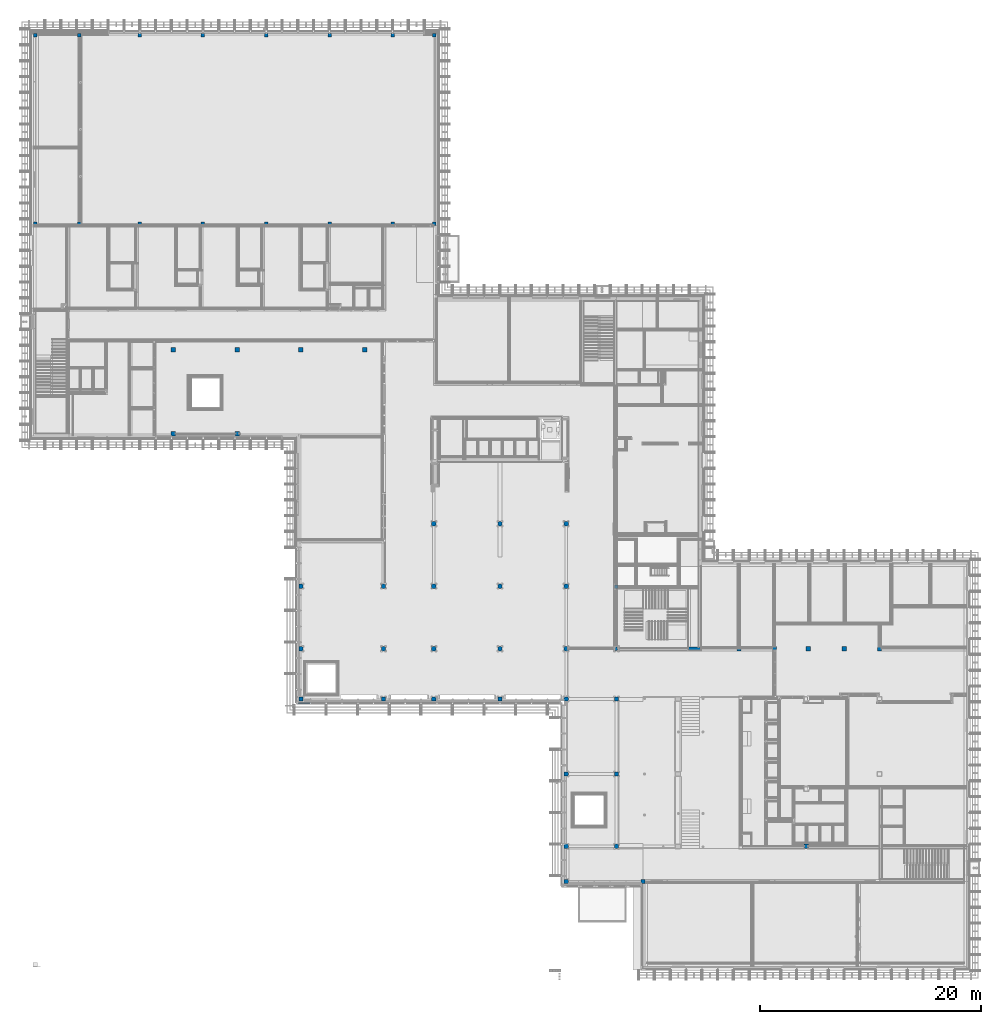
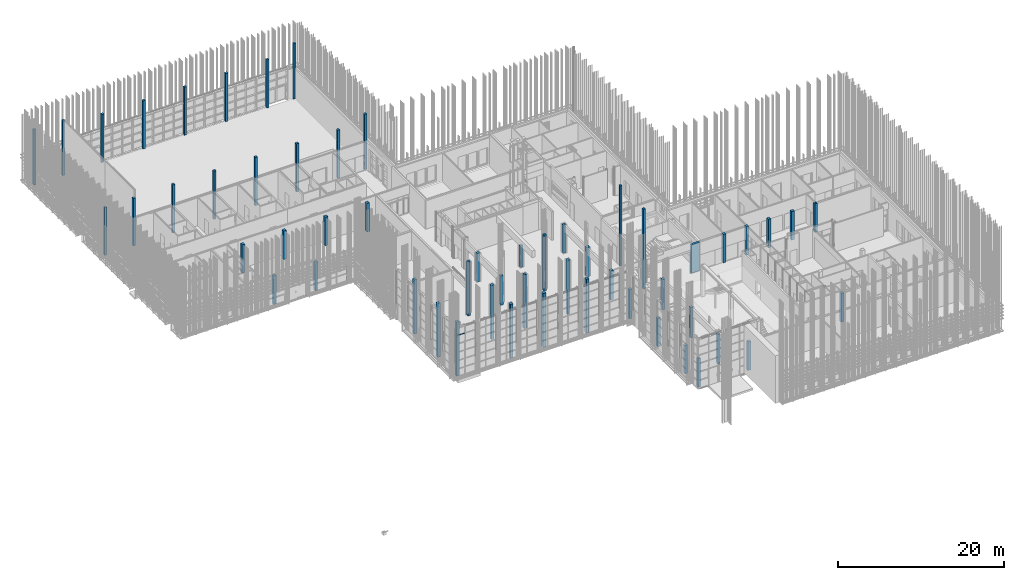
# One storey, part 1 of 260: 56 columns, 1 member, 1 element without a shape of its own.
"""IFC2X3 building model written with IfcOpenShell, lengths in millimetres."""

from ifc_helpers import new_model, entity, si_unit, converted_unit, derived_unit, money_unit, direction, frame, origin_with_axes, place, context, subcontext, project, spatial, faceted_brep, source, transform, mapped, material, type_object, element, aggregate, save


model = new_model("IFC2X3")

# Units and contexts
model_context = context("Model", 3, precision=0.01, world=origin_with_axes(), true_north=direction((0.0, 1.0)))
body_context = subcontext(model_context, "Body", "Model", "MODEL_VIEW")
ifc_project = project(units=[si_unit("LENGTHUNIT", "METRE", prefix="MILLI"), si_unit("AREAUNIT", "SQUARE_METRE"), si_unit("VOLUMEUNIT", "CUBIC_METRE"), converted_unit("PLANEANGLEUNIT", "DEGREE", entity("IfcPlaneAngleMeasure", 0.0174532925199), si_unit("PLANEANGLEUNIT", "RADIAN"), dimensions=[0, 0, 0, 0, 0, 0, 0]), money_unit("EUR"), converted_unit("TIMEUNIT", "Year", entity("IfcTimeMeasure", 31556926.0), si_unit("TIMEUNIT", "SECOND"), dimensions=[0, 0, 1, 0, 0, 0, 0]), si_unit("MASSUNIT", "GRAM", prefix="KILO"), si_unit("THERMODYNAMICTEMPERATUREUNIT", "DEGREE_CELSIUS"), si_unit("LUMINOUSINTENSITYUNIT", "LUMEN"), si_unit("ENERGYUNIT", "JOULE", prefix="MEGA"), derived_unit("THERMALCONDUCTANCEUNIT", [(si_unit("POWERUNIT", "WATT"), 1), (si_unit("LENGTHUNIT", "METRE"), -1), (si_unit("THERMODYNAMICTEMPERATUREUNIT", "KELVIN"), -1)]), derived_unit("SPECIFICHEATCAPACITYUNIT", [(si_unit("ENERGYUNIT", "JOULE"), 1), (si_unit("MASSUNIT", "GRAM", prefix="KILO"), -1), (si_unit("THERMODYNAMICTEMPERATUREUNIT", "KELVIN"), -1)]), derived_unit("MASSDENSITYUNIT", [(si_unit("MASSUNIT", "GRAM", prefix="KILO"), 1), (si_unit("VOLUMEUNIT", "CUBIC_METRE"), -1)])], contexts=[model_context])

# Site, building, storey
site_placement = place(None, origin_with_axes())
site = spatial("IfcSite", under=ifc_project, at=site_placement, Name="Kolde pst 67a", CompositionType="ELEMENT")
building_placement = place(site_placement, origin_with_axes())
building = spatial("IfcBuilding", under=site, at=building_placement, Name="Riigigümnaasium", CompositionType="ELEMENT")
storey_placement = place(building_placement, origin_with_axes())
storey = spatial("IfcBuildingStorey", under=building, at=storey_placement, Name="1. korrus", CompositionType="ELEMENT", Elevation=0.0)

# Columns
ifc_material_1 = material(Name="_KANDETARIND - liimpuit vastavalt EK osale")
column_type_1 = type_object("IfcColumnType", Name="_KANDETARIND - liimpuit vastavalt EK osale 380 x 380", PredefinedType="COLUMN")
column_1_placement = place(storey_placement, frame((52779.9941222, 10899.9619407, -300.0), z_axis=(0.0, 0.0, 1.0), x_axis=(1.0, 0.0, 0.0)))
element("IfcColumn", 1, at=column_1_placement, inside=storey, type_object=column_type_1, material=ifc_material_1, Name="POST", ObjectType="COLUMN", context=body_context, shape_type="Brep", body=[
    faceted_brep([(190.0, -190.0, 4470.0), (190.0, -190.0, 300.0), (190.0, -119.999999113, 300.0), (190.0, -119.999999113, 0.0), (190.0, 190.0, 0.0), (190.0, 190.0, 4470.0), (-190.0, -190.0, 4470.0), (-190.0, -190.0, 300.0), (-93.733573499, 190.0, 300.0), (-93.733573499, -119.999999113, 300.0), (-190.0, 190.0, 300.0), (-93.733573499, -119.999999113, 0.0), (-93.733573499, 190.0, 0.0), (-190.0, 190.0, 4470.0)], [[[0, 1, 2, 3, 4, 5]], [[0, 6, 7, 1]], [[8, 9, 2, 1, 7, 10]], [[9, 11, 3, 2]], [[4, 3, 11, 12]], [[4, 12, 8, 10, 13, 5]], [[6, 0, 5, 13]], [[6, 13, 10, 7]], [[11, 9, 8, 12]]]),
])
for number, where, z_axis, x_axis, name in (
    (2, (52779.9941222, 24229.9965348, -300.0), (0.0, 0.0, 1.0), (1.0, 0.0, 0.0), "POST"),
    (3, (52779.9941032, 17449.9999742, -300.0), (0.0, 0.0, 1.0), (1.0, 0.0, 0.0), "POST"),
):
    element("IfcColumn", number, at=place(storey_placement, frame(where, z_axis=z_axis, x_axis=x_axis)), inside=storey, type_object=column_type_1, material=ifc_material_1, Name=name, ObjectType="COLUMN", context=body_context, shape_type="Brep", body=[
        faceted_brep([(190.0, -190.0, 4470.0), (-190.0, -190.0, 4470.0), (-190.0, -190.0, 0.0), (190.0, -190.0, 0.0), (190.0, 190.0, 4470.0), (-190.0, 190.0, 4470.0), (-190.0, 190.0, 0.0), (190.0, 190.0, 0.0)], [[[0, 1, 2, 3]], [[4, 5, 1, 0]], [[1, 5, 6, 2]], [[7, 3, 2, 6]], [[4, 0, 3, 7]], [[5, 4, 7, 6]]]),
    ])
column_2_placement = place(storey_placement, frame((48229.9854607, 34439.9999729, 0.0), z_axis=(0.0, 0.0, 1.0), x_axis=(1.0, 0.0, 0.0)))
element("IfcColumn", 4, at=column_2_placement, inside=storey, type_object=column_type_1, material=ifc_material_1, Name="POST", ObjectType="COLUMN", context=body_context, shape_type="Brep", body=[
    faceted_brep([(190.0, -190.0, 0.0), (190.0, -190.0, 4310.0), (-190.0, -190.0, 4310.0), (-190.0, -190.0, 0.0), (190.0, 190.0, 0.0), (190.0, 190.0, 4310.0), (-190.0, 190.0, 4310.0), (-190.0, 190.0, 0.0)], [[[0, 1, 2, 3]], [[4, 5, 1, 0]], [[1, 5, 6, 2]], [[3, 2, 6, 7]], [[7, 4, 0, 3]], [[7, 6, 5, 4]]]),
])
column_3_placement = place(storey_placement, frame((24230.0027342, 34439.9999729, 0.0), z_axis=(0.0, 0.0, 1.0), x_axis=(1.0, 0.0, 0.0)))
element("IfcColumn", 5, at=column_3_placement, inside=storey, type_object=column_type_1, material=ifc_material_1, Name="POST", ObjectType="COLUMN", context=body_context, shape_type="Brep", body=[
    faceted_brep([(-190.0, -190.0, 7940.0), (-190.0, -190.0, 0.0), (190.0, -190.0, 0.0), (190.0, -190.0, 7940.0), (-190.0, 190.0, 7940.0), (-190.0, 190.0, 0.0), (190.0, 190.0, 0.0), (190.0, 190.0, 7940.0)], [[[0, 1, 2, 3]], [[4, 5, 1, 0]], [[2, 1, 5, 6]], [[3, 2, 6, 7]], [[4, 0, 3, 7]], [[7, 6, 5, 4]]]),
])
column_4_placement = place(storey_placement, frame((24230.0027342, 24230.2703941, 0.0), z_axis=(0.0, 0.0, 1.0), x_axis=(1.0, 0.0, 0.0)))
element("IfcColumn", 6, at=column_4_placement, inside=storey, type_object=column_type_1, material=ifc_material_1, Name="POST", ObjectType="COLUMN", context=body_context, shape_type="Brep", body=[
    faceted_brep([(190.0, -190.0, 7920.0), (-190.0, -190.0, 7920.0), (-190.0, -190.0, 0.0), (190.0, -190.0, 0.0), (190.0, 190.0, 7920.0), (-190.0, 190.0, 7920.0), (-190.0, 190.0, 0.0), (190.0, 190.0, 0.0)], [[[0, 1, 2, 3]], [[4, 5, 1, 0]], [[1, 5, 6, 2]], [[7, 3, 2, 6]], [[4, 0, 3, 7]], [[5, 4, 7, 6]]]),
])
column_5_placement = place(storey_placement, frame((36249.99923, 34439.9999729, 0.0), z_axis=(0.0, 0.0, 1.0), x_axis=(1.0, 0.0, 0.0)))
element("IfcColumn", 7, at=column_5_placement, inside=storey, type_object=column_type_1, material=ifc_material_1, Name="POST", ObjectType="COLUMN", context=body_context, shape_type="Brep", body=[
    faceted_brep([(-190.0, -190.0, 4310.0), (-190.0, -190.0, 0.0), (190.0, -190.0, 0.0), (190.0, -190.0, 4310.0), (-190.0, 190.0, 4310.0), (-190.0, 190.0, 0.0), (190.0, 190.0, 0.0), (190.0, 190.0, 4310.0)], [[[0, 1, 2, 3]], [[4, 5, 1, 0]], [[2, 1, 5, 6]], [[3, 2, 6, 7]], [[4, 0, 3, 7]], [[7, 6, 5, 4]]]),
])
column_6_placement = place(storey_placement, frame((42239.99923, 34439.9999729, 0.0), z_axis=(0.0, 0.0, 1.0), x_axis=(1.0, 0.0, 0.0)))
element("IfcColumn", 8, at=column_6_placement, inside=storey, type_object=column_type_1, material=ifc_material_1, Name="POST", ObjectType="COLUMN", context=body_context, shape_type="Brep", body=[
    faceted_brep([(190.0, -190.0, 8200.0), (-190.0, -190.0, 8200.0), (-190.0, -190.0, 0.0), (190.0, -190.0, 0.0), (190.0, 190.0, 8200.0), (-190.0, 190.0, 8200.0), (-190.0, 190.0, 0.0), (190.0, 190.0, 0.0)], [[[0, 1, 2, 3]], [[4, 5, 1, 0]], [[1, 5, 6, 2]], [[7, 3, 2, 6]], [[4, 0, 3, 7]], [[5, 4, 7, 6]]]),
])
for number, where, z_axis, x_axis, name in (
    (9, (48229.9854607, 40089.9999168, 0.0), (0.0, 0.0, 1.0), (1.0, 0.0, 0.0), "POST"),
    (10, (36249.99923, 40089.9999168, 0.0), (0.0, 0.0, 1.0), (1.0, 0.0, 0.0), "POST"),
):
    element("IfcColumn", number, at=place(storey_placement, frame(where, z_axis=z_axis, x_axis=x_axis)), inside=storey, type_object=column_type_1, material=ifc_material_1, Name=name, ObjectType="COLUMN", context=body_context, shape_type="Brep", body=[
        faceted_brep([(-190.0, -190.0, 4170.0), (-190.0, -190.0, 0.0), (190.0, -190.0, 0.0), (190.0, -190.0, 4170.0), (-190.0, 190.0, 4170.0), (-190.0, 190.0, 0.0), (190.0, 190.0, 0.0), (190.0, 190.0, 4170.0)], [[[0, 1, 2, 3]], [[4, 5, 1, 0]], [[2, 1, 5, 6]], [[3, 2, 6, 7]], [[4, 0, 3, 7]], [[7, 6, 5, 4]]]),
    ])
column_7_placement = place(storey_placement, frame((42239.99923, 40089.9999168, 0.0), z_axis=(0.0, 0.0, 1.0), x_axis=(1.0, 0.0, 0.0)))
element("IfcColumn", 11, at=column_7_placement, inside=storey, type_object=column_type_1, material=ifc_material_1, Name="POST", ObjectType="COLUMN", context=body_context, shape_type="Brep", body=[
    faceted_brep([(-190.0, -190.0, 3195.00000043), (-190.0, -190.0, 0.0), (190.0, -190.0, 0.0), (190.0, -190.0, 3195.00000043), (-190.0, 190.0, 3195.00000043), (-190.0, 190.0, 0.0), (190.0, 190.0, 0.0), (190.0, 190.0, 3195.00000043)], [[[0, 1, 2, 3]], [[4, 5, 1, 0]], [[2, 1, 5, 6]], [[3, 2, 6, 7]], [[4, 0, 3, 7]], [[7, 6, 5, 4]]]),
])
column_8_placement = place(storey_placement, frame((48229.9854607, 28779.9996998, 0.0), z_axis=(0.0, 0.0, 1.0), x_axis=(1.0, 0.0, 0.0)))
element("IfcColumn", 12, at=column_8_placement, inside=storey, type_object=column_type_1, material=ifc_material_1, Name="POST", ObjectType="COLUMN", context=body_context, shape_type="Brep", body=[
    faceted_brep([(190.0, -190.0, 4310.0), (-190.0, -190.0, 4310.0), (-190.0, -190.0, 0.0), (190.0, -190.0, 0.0), (190.0, 190.0, 4310.0), (-190.0, 190.0, 4310.0), (-190.0, 190.0, 0.0), (190.0, 190.0, 0.0)], [[[0, 1, 2, 3]], [[4, 5, 1, 0]], [[1, 5, 6, 2]], [[7, 3, 2, 6]], [[4, 0, 3, 7]], [[5, 4, 7, 6]]]),
])
for number, where, z_axis, x_axis, name in (
    (13, (36249.99923, 28779.9996997, 0.0), (0.0, 0.0, 1.0), (1.0, 0.0, 0.0), "POST"),
    (14, (42239.99923, 28779.9996997, 0.0), (0.0, 0.0, 1.0), (1.0, 0.0, 0.0), "POST"),
):
    element("IfcColumn", number, at=place(storey_placement, frame(where, z_axis=z_axis, x_axis=x_axis)), inside=storey, type_object=column_type_1, material=ifc_material_1, Name=name, ObjectType="COLUMN", context=body_context, shape_type="Brep", body=[
        faceted_brep([(-190.0, -190.0, 7920.0), (-190.0, -190.0, 0.0), (190.0, -190.0, 0.0), (190.0, -190.0, 7920.0), (-190.0, 190.0, 7920.0), (-190.0, 190.0, 0.0), (190.0, 190.0, 0.0), (190.0, 190.0, 7920.0)], [[[0, 1, 2, 3]], [[4, 5, 1, 0]], [[2, 1, 5, 6]], [[3, 2, 6, 7]], [[4, 0, 3, 7]], [[7, 6, 5, 4]]]),
    ])
for number, where, z_axis, x_axis, name in (
    (15, (36249.99923, 24230.2703956, 0.0), (0.0, 0.0, 1.0), (1.0, 0.0, 0.0), "POST"),
    (16, (42239.99923, 24230.2703956, 0.0), (0.0, 0.0, 1.0), (1.0, 0.0, 0.0), "POST"),
):
    element("IfcColumn", number, at=place(storey_placement, frame(where, z_axis=z_axis, x_axis=x_axis)), inside=storey, type_object=column_type_1, material=ifc_material_1, Name=name, ObjectType="COLUMN", context=body_context, shape_type="Brep", body=[
        faceted_brep([(190.0, -190.0, 7920.0), (-190.0, -190.0, 7920.0), (-190.0, -190.0, 0.0), (190.0, -190.0, 0.0), (190.0, 190.0, 7920.0), (-190.0, 190.0, 7920.0), (-190.0, 190.0, 0.0), (190.0, 190.0, 0.0)], [[[0, 1, 2, 3]], [[4, 5, 1, 0]], [[1, 5, 6, 2]], [[7, 3, 2, 6]], [[4, 0, 3, 7]], [[5, 4, 7, 6]]]),
    ])
column_9_placement = place(storey_placement, frame((31700.0027795, 34439.9999729, 0.0), z_axis=(0.0, 0.0, 1.0), x_axis=(1.0, 0.0, 0.0)))
element("IfcColumn", 17, at=column_9_placement, inside=storey, type_object=column_type_1, material=ifc_material_1, Name="POST", ObjectType="COLUMN", context=body_context, shape_type="Brep", body=[
    faceted_brep([(-190.0, -190.0, 7940.0), (-190.0, -190.0, 0.0), (190.0, -190.0, 0.0), (190.0, -190.0, 7940.0), (-190.0, 190.0, 7940.0), (-190.0, 190.0, 0.0), (190.0, 190.0, 0.0), (190.0, 190.0, 7940.0)], [[[0, 1, 2, 3]], [[4, 5, 1, 0]], [[2, 1, 5, 6]], [[3, 2, 6, 7]], [[4, 0, 3, 7]], [[7, 6, 5, 4]]]),
])
column_10_placement = place(storey_placement, frame((24230.0027342, 28779.9996997, 0.0), z_axis=(0.0, 0.0, 1.0), x_axis=(1.0, 0.0, 0.0)))
element("IfcColumn", 18, at=column_10_placement, inside=storey, type_object=column_type_1, material=ifc_material_1, Name="POST", ObjectType="COLUMN", context=body_context, shape_type="Brep", body=[
    faceted_brep([(-190.0, -190.0, 7920.0), (-190.0, -190.0, 0.0), (190.0, -190.0, 0.0), (190.0, -190.0, 7920.0), (-190.0, 190.0, 7920.0), (-190.0, 190.0, 0.0), (190.0, 190.0, 0.0), (190.0, 190.0, 7920.0)], [[[0, 1, 2, 3]], [[4, 5, 1, 0]], [[2, 1, 5, 6]], [[3, 2, 6, 7]], [[4, 0, 3, 7]], [[7, 6, 5, 4]]]),
])
column_11_placement = place(storey_placement, frame((31700.0027795, 24230.2703956, 0.0), z_axis=(0.0, 0.0, 1.0), x_axis=(1.0, 0.0, 0.0)))
element("IfcColumn", 19, at=column_11_placement, inside=storey, type_object=column_type_1, material=ifc_material_1, Name="POST", ObjectType="COLUMN", context=body_context, shape_type="Brep", body=[
    faceted_brep([(190.0, -190.0, 7920.0), (-190.0, -190.0, 7920.0), (-190.0, -190.0, 0.0), (190.0, -190.0, 0.0), (190.0, 190.0, 7920.0), (-190.0, 190.0, 7920.0), (-190.0, 190.0, 0.0), (190.0, 190.0, 0.0)], [[[0, 1, 2, 3]], [[4, 5, 1, 0]], [[1, 5, 6, 2]], [[7, 3, 2, 6]], [[4, 0, 3, 7]], [[5, 4, 7, 6]]]),
])
column_12_placement = place(storey_placement, frame((31700.0027795, 28779.9996997, 0.0), z_axis=(0.0, 0.0, 1.0), x_axis=(1.0, 0.0, 0.0)))
element("IfcColumn", 20, at=column_12_placement, inside=storey, type_object=column_type_1, material=ifc_material_1, Name="POST", ObjectType="COLUMN", context=body_context, shape_type="Brep", body=[
    faceted_brep([(-190.0, -190.0, 7920.0), (-190.0, -190.0, 0.0), (190.0, -190.0, 0.0), (190.0, -190.0, 7920.0), (-190.0, 190.0, 7920.0), (-190.0, 190.0, 0.0), (190.0, 190.0, 0.0), (190.0, 190.0, 7920.0)], [[[0, 1, 2, 3]], [[4, 5, 1, 0]], [[2, 1, 5, 6]], [[3, 2, 6, 7]], [[4, 0, 3, 7]], [[7, 6, 5, 4]]]),
])
for number, where, z_axis, x_axis, name in (
    (21, (48229.9855176, 10899.9619736, 0.0), (0.0, 0.0, 1.0), (1.0, 0.0, 0.0), "POST"),
    (22, (48229.985469, 17449.9999742, 0.0), (0.0, 0.0, 1.0), (1.0, 0.0, 0.0), "POST"),
    (23, (48229.9854798, 7710.0, 0.0), (0.0, 0.0, 1.0), (1.0, 0.0, 0.0), "POST"),
):
    element("IfcColumn", number, at=place(storey_placement, frame(where, z_axis=z_axis, x_axis=x_axis)), inside=storey, type_object=column_type_1, material=ifc_material_1, Name=name, ObjectType="COLUMN", context=body_context, shape_type="Brep", body=[
        faceted_brep([(-190.0, -190.0, 4170.0), (-190.0, -190.0, 0.0), (190.0, -190.0, 0.0), (190.0, -190.0, 4170.0), (-190.0, 190.0, 4170.0), (-190.0, 190.0, 0.0), (190.0, 190.0, 0.0), (190.0, 190.0, 4170.0)], [[[0, 1, 2, 3]], [[4, 5, 1, 0]], [[2, 1, 5, 6]], [[3, 2, 6, 7]], [[4, 0, 3, 7]], [[7, 6, 5, 4]]]),
    ])
column_13_placement = place(storey_placement, frame((55179.9802711, 7710.0, 0.0), z_axis=(0.0, 0.0, 1.0), x_axis=(1.0, 0.0, 0.0)))
element("IfcColumn", 24, at=column_13_placement, inside=storey, type_object=column_type_1, material=ifc_material_1, Name="POST", ObjectType="COLUMN", context=body_context, shape_type="Brep", body=[
    faceted_brep([(-190.0, -190.0, 4220.0), (-190.0, -190.0, 0.0), (190.0, -190.0, 0.0), (190.0, -190.0, 4220.0), (-190.0, 190.0, 4220.0), (-190.0, 190.0, 0.0), (190.0, 190.0, 0.0), (190.0, 190.0, 4220.0)], [[[0, 1, 2, 3]], [[4, 5, 1, 0]], [[2, 1, 5, 6]], [[3, 2, 6, 7]], [[4, 0, 3, 7]], [[7, 6, 5, 4]]]),
])
for number, where, z_axis, x_axis, name in (
    (25, (70139.9994313, 28779.9999432, 0.0), (0.0, 0.0, 1.0), (1.0, 0.0, 0.0), "POST"),
    (26, (73390.0301551, 28779.9993108, 0.0), (0.0, 0.0, 1.0), (1.0, 0.0, 0.0), "POST"),
    (27, (67050.0301551, 28779.9996888, 0.0), (0.0, 0.0, 1.0), (1.0, 0.0, 0.0), "POST"),
):
    element("IfcColumn", number, at=place(storey_placement, frame(where, z_axis=z_axis, x_axis=x_axis)), inside=storey, type_object=column_type_1, material=ifc_material_1, Name=name, ObjectType="COLUMN", context=body_context, shape_type="Brep", body=[
        faceted_brep([(-190.0, -190.0, 4190.0), (-190.0, -190.0, 0.0), (190.0, -190.0, 0.0), (190.0, -190.0, 4190.0), (-190.0, 190.0, 4190.0), (-190.0, 190.0, 0.0), (190.0, 190.0, 0.0), (190.0, 190.0, 4190.0)], [[[0, 1, 2, 3]], [[4, 5, 1, 0]], [[2, 1, 5, 6]], [[3, 2, 6, 7]], [[4, 0, 3, 7]], [[7, 6, 5, 4]]]),
    ])
column_14_placement = place(storey_placement, frame((63880.0301551, 28779.9996998, 0.0), z_axis=(0.0, 0.0, 1.0), x_axis=(1.0, 0.0, 0.0)))
element("IfcColumn", 28, at=column_14_placement, inside=storey, type_object=column_type_1, material=ifc_material_1, Name="POST", ObjectType="COLUMN", context=body_context, shape_type="Brep", body=[
    faceted_brep([(-190.0, -190.0, 4169.9), (-190.0, -190.0, 0.0), (190.0, -190.0, 0.0), (190.0, -190.0, 4169.9), (-190.0, 190.0, 4169.9), (-190.0, 190.0, 0.0), (190.0, 190.0, 0.0), (190.0, 190.0, 4169.9)], [[[0, 1, 2, 3]], [[4, 5, 1, 0]], [[2, 1, 5, 6]], [[3, 2, 6, 7]], [[4, 0, 3, 7]], [[7, 6, 5, 4]]]),
])
column_15_placement = place(storey_placement, frame((76590.0020631, 28779.9993109, 0.0), z_axis=(0.0, 0.0, 1.0), x_axis=(1.0, 0.0, 0.0)))
element("IfcColumn", 29, at=column_15_placement, inside=storey, type_object=column_type_1, material=ifc_material_1, Name="POST", ObjectType="COLUMN", context=body_context, shape_type="Brep", body=[
    faceted_brep([(-190.0, 190.0, 4170.0), (60.0, 190.0, 4170.0), (60.0, 190.0, 4190.0), (190.0, 190.0, 4190.0), (190.0, 190.0, 0.0), (-190.0, 190.0, 0.0), (-190.0, -190.0, 4170.0), (60.0, -190.0, 4170.0), (60.0, -190.0, 4190.0), (190.0, -190.0, 4190.0), (190.0, -190.0, 0.0), (-190.0, -190.0, 0.0)], [[[0, 1, 2, 3, 4, 5]], [[1, 0, 6, 7]], [[8, 2, 1, 7]], [[2, 8, 9, 3]], [[4, 3, 9, 10]], [[5, 4, 10, 11]], [[6, 0, 5, 11]], [[7, 6, 11, 10, 9, 8]]]),
])
column_16_placement = place(storey_placement, frame((48229.9854607, 24229.9965348, 0.0), z_axis=(0.0, 0.0, 1.0), x_axis=(1.0, 0.0, 0.0)))
element("IfcColumn", 30, at=column_16_placement, inside=storey, type_object=column_type_1, material=ifc_material_1, Name="POST", ObjectType="COLUMN", context=body_context, shape_type="Brep", body=[
    faceted_brep([(190.0, -190.0, 4310.0), (-190.0, -190.0, 4310.0), (-190.0, -190.0, 0.0), (190.0, -190.0, 0.0), (190.0, 190.0, 4310.0), (-190.0, 190.0, 4310.0), (-190.0, 190.0, 0.0), (190.0, 190.0, 0.0)], [[[0, 1, 2, 3]], [[4, 5, 1, 0]], [[1, 5, 6, 2]], [[7, 3, 2, 6]], [[4, 0, 3, 7]], [[5, 4, 7, 6]]]),
])
column_type_2 = type_object("IfcColumnType", Name="_KANDETARIND - liimpuit vastavalt EK osale 320 x 320", PredefinedType="COLUMN")
for number, where, z_axis, x_axis, name in (
    (31, (32550.0, 84279.9808339, 0.0), (0.0, 0.0, 1.0), (1.0, 0.0, 0.0), "Post"),
    (32, (26820.0, 84279.9808339, 0.0), (0.0, 0.0, 1.0), (1.0, 0.0, 0.0), "Post"),
):
    element("IfcColumn", number, at=place(storey_placement, frame(where, z_axis=z_axis, x_axis=x_axis)), inside=storey, type_object=column_type_2, material=ifc_material_1, Name=name, ObjectType="COLUMN", context=body_context, shape_type="Brep", body=[
        faceted_brep([(-160.0, -160.0, 7080.0), (-160.0, -160.0, 0.0), (160.0, -160.0, 0.0), (160.0, -160.0, 7080.0), (-160.0, 160.0, 7080.0), (-160.0, 160.0, 0.0), (160.0, 160.0, 0.0), (160.0, 160.0, 7080.0)], [[[0, 1, 2, 3]], [[4, 5, 1, 0]], [[2, 1, 5, 6]], [[3, 2, 6, 7]], [[4, 0, 3, 7]], [[7, 6, 5, 4]]]),
    ])
column_17_placement = place(storey_placement, frame((200.056358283, 84279.9999608, 0.0), z_axis=(0.0, 0.0, 1.0), x_axis=(1.0, 0.0, 0.0)))
element("IfcColumn", 33, at=column_17_placement, inside=storey, type_object=column_type_2, material=ifc_material_1, Name="Post", ObjectType="COLUMN", context=body_context, shape_type="Brep", body=[
    faceted_brep([(-160.0, -160.0, 8120.00002947), (-160.0, -160.0, 0.0), (160.0, -160.0, 0.0), (160.0, -160.0, 8120.00002947), (-160.0, 160.0, 8120.00002947), (-160.0, 160.0, 0.0), (160.0, 160.0, 0.0), (160.0, 160.0, 8120.00002947)], [[[0, 1, 2, 3]], [[4, 5, 1, 0]], [[2, 1, 5, 6]], [[3, 2, 6, 7]], [[4, 0, 3, 7]], [[7, 6, 5, 4]]]),
])
for number, where, z_axis, x_axis, name in (
    (34, (26820.0, 67249.9808339, 0.0), (0.0, 0.0, 1.0), (1.0, 0.0, 0.0), "Post"),
    (35, (32550.0, 67249.9808339, 0.0), (0.0, 0.0, 1.0), (1.0, 0.0, 0.0), "Post"),
):
    element("IfcColumn", number, at=place(storey_placement, frame(where, z_axis=z_axis, x_axis=x_axis)), inside=storey, type_object=column_type_2, material=ifc_material_1, Name=name, ObjectType="COLUMN", context=body_context, shape_type="Brep", body=[
        faceted_brep([(160.0, -160.0, 7080.0), (-160.0, -160.0, 7080.0), (-160.0, -160.0, 0.0), (160.0, -160.0, 0.0), (160.0, 160.0, 7080.0), (-160.0, 160.0, 7080.0), (-160.0, 160.0, 0.0), (160.0, 160.0, 0.0)], [[[0, 1, 2, 3]], [[4, 5, 1, 0]], [[1, 5, 6, 2]], [[7, 3, 2, 6]], [[4, 0, 3, 7]], [[5, 4, 7, 6]]]),
    ])
column_18_placement = place(storey_placement, frame((36279.9991021, 67249.9978884, 0.0), z_axis=(0.0, 0.0, 1.0), x_axis=(1.0, 0.0, 0.0)))
element("IfcColumn", 36, at=column_18_placement, inside=storey, type_object=column_type_2, material=ifc_material_1, Name="Post", ObjectType="COLUMN", context=body_context, shape_type="Brep", body=[
    faceted_brep([(-160.0, -160.0, 8119.99999974), (-160.0, -160.0, 0.0), (160.0, -160.0, 0.0), (160.0, -160.0, 8119.99999974), (-160.0, 160.0, 8119.99999974), (-160.0, 160.0, 0.0), (160.0, 160.0, 0.0), (160.0, 160.0, 8119.99999974)], [[[0, 1, 2, 3]], [[1, 0, 4, 5]], [[1, 5, 6, 2]], [[2, 6, 7, 3]], [[4, 0, 3, 7]], [[5, 4, 7, 6]]]),
])
for number, where, z_axis, x_axis, name in (
    (37, (21090.0, 84279.9808339, 0.0), (0.0, 0.0, 1.0), (1.0, 0.0, 0.0), "Post"),
    (38, (21090.0, 67249.9808339, 0.0), (0.0, 0.0, 1.0), (1.0, 0.0, 0.0), "Post"),
    (39, (15360.0, 84279.9808339, 0.0), (0.0, 0.0, 1.0), (1.0, 0.0, 0.0), "Post"),
):
    element("IfcColumn", number, at=place(storey_placement, frame(where, z_axis=z_axis, x_axis=x_axis)), inside=storey, type_object=column_type_2, material=ifc_material_1, Name=name, ObjectType="COLUMN", context=body_context, shape_type="Brep", body=[
        faceted_brep([(-160.0, -160.0, 7080.0), (-160.0, -160.0, 0.0), (160.0, -160.0, 0.0), (160.0, -160.0, 7080.0), (-160.0, 160.0, 7080.0), (-160.0, 160.0, 0.0), (160.0, 160.0, 0.0), (160.0, 160.0, 7080.0)], [[[0, 1, 2, 3]], [[4, 5, 1, 0]], [[2, 1, 5, 6]], [[3, 2, 6, 7]], [[4, 0, 3, 7]], [[7, 6, 5, 4]]]),
    ])
column_19_placement = place(storey_placement, frame((15360.0, 67249.9971514, 0.0), z_axis=(0.0, 0.0, 1.0), x_axis=(1.0, 0.0, 0.0)))
element("IfcColumn", 40, at=column_19_placement, inside=storey, type_object=column_type_2, material=ifc_material_1, Name="Post", ObjectType="COLUMN", context=body_context, shape_type="Brep", body=[
    faceted_brep([(160.0, -160.0, 7080.0), (-160.0, -160.0, 7080.0), (-160.0, -160.0, 0.0), (160.0, -160.0, 0.0), (160.0, 160.0, 7080.0), (-160.0, 160.0, 7080.0), (-160.0, 160.0, 0.0), (160.0, 160.0, 0.0)], [[[0, 1, 2, 3]], [[4, 5, 1, 0]], [[1, 5, 6, 2]], [[7, 3, 2, 6]], [[4, 0, 3, 7]], [[5, 4, 7, 6]]]),
])
column_20_placement = place(storey_placement, frame((9630.0, 84279.9999608, 0.0), z_axis=(0.0, 0.0, 1.0), x_axis=(1.0, 0.0, 0.0)))
element("IfcColumn", 41, at=column_20_placement, inside=storey, type_object=column_type_2, material=ifc_material_1, Name="Post", ObjectType="COLUMN", context=body_context, shape_type="Brep", body=[
    faceted_brep([(-160.0, -160.0, 7080.0), (-160.0, -160.0, 0.0), (160.0, -160.0, 0.0), (160.0, -160.0, 7080.0), (-160.0, 160.0, 7080.0), (-160.0, 160.0, 0.0), (160.0, 160.0, 0.0), (160.0, 160.0, 7080.0)], [[[0, 1, 2, 3]], [[4, 5, 1, 0]], [[2, 1, 5, 6]], [[3, 2, 6, 7]], [[4, 0, 3, 7]], [[7, 6, 5, 4]]]),
])
column_21_placement = place(storey_placement, frame((9630.0, 67249.9808339, 0.0), z_axis=(0.0, 0.0, 1.0), x_axis=(1.0, 0.0, 0.0)))
element("IfcColumn", 42, at=column_21_placement, inside=storey, type_object=column_type_2, material=ifc_material_1, Name="Post", ObjectType="COLUMN", context=body_context, shape_type="Brep", body=[
    faceted_brep([(160.0, -160.0, 7080.0), (-160.0, -160.0, 7080.0), (-160.0, -160.0, 0.0), (160.0, -160.0, 0.0), (160.0, 160.0, 7080.0), (-160.0, 160.0, 7080.0), (-160.0, 160.0, 0.0), (160.0, 160.0, 0.0)], [[[0, 1, 2, 3]], [[4, 5, 1, 0]], [[1, 5, 6, 2]], [[7, 3, 2, 6]], [[4, 0, 3, 7]], [[5, 4, 7, 6]]]),
])
column_22_placement = place(storey_placement, frame((4179.99949991, 84279.9808339, 0.0), z_axis=(0.0, 0.0, 1.0), x_axis=(1.0, 0.0, 0.0)))
element("IfcColumn", 43, at=column_22_placement, inside=storey, type_object=column_type_2, material=ifc_material_1, Name="Post", ObjectType="COLUMN", context=body_context, shape_type="Brep", body=[
    faceted_brep([(160.0, 160.0, 8055.82667178), (160.0, 160.0, 0.0), (-160.0, 160.0, 0.0), (-160.0, 160.0, 8055.82667178), (160.0, -160.0, 8055.82667178), (160.0, -160.0, 0.0), (-160.0, -160.0, 0.0), (-160.0, -160.0, 8055.82667178)], [[[0, 1, 2, 3]], [[4, 5, 1, 0]], [[2, 1, 5, 6]], [[3, 2, 6, 7]], [[4, 0, 3, 7]], [[7, 6, 5, 4]]]),
])
for number, where, z_axis, x_axis, name in (
    (44, (4179.99949991, 67249.9971514, 0.0), (0.0, 0.0, 1.0), (1.0, 0.0, 0.0), "Post"),
    (45, (199.949382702, 67249.9971514, 0.0), (0.0, 0.0, 1.0), (1.0, 0.0, 0.0), "Post"),
):
    element("IfcColumn", number, at=place(storey_placement, frame(where, z_axis=z_axis, x_axis=x_axis)), inside=storey, type_object=column_type_2, material=ifc_material_1, Name=name, ObjectType="COLUMN", context=body_context, shape_type="Brep", body=[
        faceted_brep([(-160.0, 160.0, 7000.0), (160.0, 160.0, 7000.0), (160.0, 160.0, 0.0), (-160.0, 160.0, 0.0), (-160.0, -160.0, 7000.0), (160.0, -160.0, 7000.0), (160.0, -160.0, 0.0), (-160.0, -160.0, 0.0)], [[[0, 1, 2, 3]], [[4, 5, 1, 0]], [[1, 5, 6, 2]], [[7, 3, 2, 6]], [[4, 0, 3, 7]], [[5, 4, 7, 6]]]),
    ])
column_23_placement = place(storey_placement, frame((36279.9991021, 84279.9999608, 0.0), z_axis=(0.0, 0.0, 1.0), x_axis=(1.0, 0.0, 0.0)))
element("IfcColumn", 46, at=column_23_placement, inside=storey, type_object=column_type_2, material=ifc_material_1, Name="Post", ObjectType="COLUMN", context=body_context, shape_type="Brep", body=[
    faceted_brep([(-160.0, -160.0, 8119.99999974), (-160.0, -160.0, 0.0), (160.0, -160.0, 0.0), (160.0, -160.0, 8119.99999974), (-160.0, 160.0, 8119.99999974), (-160.0, 160.0, 0.0), (160.0, 160.0, 0.0), (160.0, 160.0, 8119.99999974)], [[[0, 1, 2, 3]], [[4, 5, 1, 0]], [[2, 1, 5, 6]], [[3, 2, 6, 7]], [[4, 0, 3, 7]], [[7, 6, 5, 4]]]),
])
column_type_3 = type_object("IfcColumnType", Name="_KANDETARIND - liimpuit vastavalt EK osale 400 x 400", PredefinedType="COLUMN")
for number, where, z_axis, x_axis, name in (
    (47, (18450.0035443, 55819.9944255, 0.0), (0.0, 0.0, 1.0), (1.0, 0.0, 0.0), "POST"),
    (48, (12679.9962162, 55819.9944255, 0.0), (0.0, 0.0, 1.0), (1.0, 0.0, 0.0), "POST"),
    (49, (24220.0108725, 55819.9944255, 0.0), (0.0, 0.0, 1.0), (1.0, 0.0, 0.0), "POST"),
    (50, (29990.0182006, 55819.9944255, 0.0), (0.0, 0.0, 1.0), (1.0, 0.0, 0.0), "POST"),
):
    element("IfcColumn", number, at=place(storey_placement, frame(where, z_axis=z_axis, x_axis=x_axis)), inside=storey, type_object=column_type_3, material=ifc_material_1, Name=name, ObjectType="COLUMN", context=body_context, shape_type="Brep", body=[
        faceted_brep([(-200.0, -200.0, 4190.0), (-200.0, -200.0, 0.0), (200.0, -200.0, 0.0), (200.0, -200.0, 4190.0), (-200.0, 200.0, 4190.0), (-200.0, 200.0, 0.0), (200.0, 200.0, 0.0), (200.0, 200.0, 4190.0)], [[[0, 1, 2, 3]], [[4, 5, 1, 0]], [[2, 1, 5, 6]], [[3, 2, 6, 7]], [[4, 0, 3, 7]], [[7, 6, 5, 4]]]),
    ])
for number, where, z_axis, x_axis, name in (
    (51, (12679.9962162, 48239.7492541, 0.0), (0.0, 0.0, 1.0), (1.0, 0.0, 0.0), "POST"),
    (52, (18450.0035443, 48239.7492541, 0.0), (0.0, 0.0, 1.0), (1.0, 0.0, 0.0), "POST"),
):
    element("IfcColumn", number, at=place(storey_placement, frame(where, z_axis=z_axis, x_axis=x_axis)), inside=storey, type_object=column_type_3, material=ifc_material_1, Name=name, ObjectType="COLUMN", context=body_context, shape_type="Brep", body=[
        faceted_brep([(-200.0, -200.0, 4170.0), (-200.0, -200.0, 0.0), (200.0, -200.0, 0.0), (200.0, -200.0, 4170.0), (-200.0, 200.0, 4170.0), (-200.0, 200.0, 0.0), (200.0, 200.0, 0.0), (200.0, 200.0, 4170.0)], [[[0, 1, 2, 3]], [[4, 5, 1, 0]], [[2, 1, 5, 6]], [[3, 2, 6, 7]], [[4, 0, 3, 7]], [[7, 6, 5, 4]]]),
    ])
ifc_material_2 = material(Name="_KANDETARIND - raudbetoon C25/30 vastavalt EK osale")
column_type_4 = type_object("IfcColumnType", Name="_KANDETARIND - raudbetoon C25/30 vastavalt EK osale 400 x 400", PredefinedType="COLUMN")
column_24_placement = place(storey_placement, frame((69949.9993262, 10899.9619407, 0.0), z_axis=(0.0, 0.0, 1.0), x_axis=(1.0, 0.0, 0.0)))
element("IfcColumn", 53, at=column_24_placement, inside=storey, type_object=column_type_4, material=ifc_material_2, Name="POST", ObjectType="COLUMN", context=body_context, shape_type="Brep", body=[
    faceted_brep([(200.0, -200.0, 4220.0), (-200.0, -200.0, 4220.0), (-200.0, -200.0, 0.0), (200.0, -200.0, 0.0), (200.0, 200.0, 4220.0), (-200.0, 200.0, 4220.0), (-200.0, 200.0, 0.0), (200.0, 200.0, 0.0)], [[[0, 1, 2, 3]], [[4, 5, 1, 0]], [[1, 5, 6, 2]], [[7, 3, 2, 6]], [[4, 0, 3, 7]], [[5, 4, 7, 6]]]),
])
column_type_5 = type_object("IfcColumnType", Name="_KANDETARIND - raudbetoon C25/30 vastavalt EK osale 1160 x 300", PredefinedType="COLUMN")
column_25_placement = place(storey_placement, frame((59860.0155625, 28769.999656, 0.0), z_axis=(0.0, 0.0, 1.0), x_axis=(1.0, 0.0, 0.0)))
element("IfcColumn", 54, at=column_25_placement, inside=storey, type_object=column_type_5, material=ifc_material_2, Name="POST", ObjectType="COLUMN", context=body_context, shape_type="Brep", body=[
    faceted_brep([(-579.978792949, -150.0, 4170.0), (-579.978792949, -150.0, 0.0), (579.978792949, -150.0, 0.0), (579.978792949, -150.0, 4170.0), (-579.978792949, 150.0, 4170.0), (-579.978792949, 150.0, 0.0), (579.978792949, 150.0, 0.0), (579.978792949, 150.0, 4170.0)], [[[0, 1, 2, 3]], [[4, 5, 1, 0]], [[2, 1, 5, 6]], [[3, 2, 6, 7]], [[4, 0, 3, 7]], [[7, 6, 5, 4]]]),
])
column_type_6 = type_object("IfcColumnType", Name="_KANDETARIND - raudbetoon C25/30 vastavalt EK osale 300 x 300", PredefinedType="COLUMN")
for number, where, z_axis, x_axis, name in (
    (55, (52769.9941222, 34389.9999729, 0.0), (0.0, 0.0, 1.0), (1.0, 0.0, 0.0), "POST"),
    (56, (52769.9941222, 28769.999656, 0.0), (0.0, 0.0, 1.0), (1.0, 0.0, 0.0), "POST"),
):
    element("IfcColumn", number, at=place(storey_placement, frame(where, z_axis=z_axis, x_axis=x_axis)), inside=storey, type_object=column_type_6, material=ifc_material_2, Name=name, ObjectType="COLUMN", context=body_context, shape_type="Brep", body=[
        faceted_brep([(150.0, -150.0, 11730.0), (-150.0, -150.0, 11730.0), (-150.0, -150.0, 0.0), (150.0, -150.0, 0.0), (150.0, 150.0, 11730.0), (-150.0, 150.0, 11730.0), (-150.0, 150.0, 0.0), (150.0, 150.0, 0.0)], [[[0, 1, 2, 3]], [[4, 5, 1, 0]], [[1, 5, 6, 2]], [[7, 3, 2, 6]], [[4, 0, 3, 7]], [[5, 4, 7, 6]]]),
    ])

# Curtain wall, member
curtain_wall_type = type_object("IfcCurtainWallType", Name="Curtain Wall Type", PredefinedType="NOTDEFINED")
curtain_wall_placement = place(storey_placement, frame((47829.9854655, 8727.77020058, -0.000749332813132), z_axis=(0.0, 0.0, 1.0), x_axis=(1.0, 0.0, 0.0)))
curtain_wall = element("IfcCurtainWall", 57, at=curtain_wall_placement, inside=storey, type_object=curtain_wall_type, Name="KLAASFASSAAD")
ifc_material_3 = material(Name="_METALL - alumiinium")
member_type = type_object("IfcMemberType", Name="Transom Frame 50 x 100", PredefinedType="MEMBER")
shared_shape = source(origin_with_axes(), body_context, "Body", "Brep", [
    faceted_brep([(5.0, -16.5, 1117.56909149), (5.0, 16.5, 1117.56909149), (25.0, 16.5, 1117.56909149), (25.0, 40.0, 1117.56909149), (-25.0, 40.0, 1117.56909149), (-25.0, 16.5, 1117.56909149), (-5.0, 16.5, 1117.56909149), (-5.0, -16.5, 1117.56909149), (-25.0, -16.5, 1117.56909149), (-25.0, -60.0, 1117.56909149), (25.0, -60.0, 1117.56909149), (25.0, -16.5, 1117.56909149), (5.0, -16.5, 25.0), (5.0, 16.5, 25.0), (25.0, 16.5, 25.0), (25.0, 40.0, 25.0), (-25.0, 40.0, 25.0), (-25.0, 16.5, 25.0), (-5.0, 16.5, 25.0), (-5.0, -16.5, 25.0), (-25.0, -16.5, 25.0), (-25.0, -60.0, 25.0), (25.0, -60.0, 25.0), (25.0, -16.5, 25.0)], [[[0, 1, 2, 3, 4, 5, 6, 7, 8, 9, 10, 11]], [[0, 12, 13, 1]], [[1, 13, 14, 2]], [[14, 15, 3, 2]], [[4, 3, 15, 16]], [[17, 5, 4, 16]], [[5, 17, 18, 6]], [[7, 6, 18, 19]], [[8, 7, 19, 20]], [[8, 20, 21, 9]], [[10, 9, 21, 22]], [[11, 10, 22, 23]], [[11, 23, 12, 0]], [[13, 12, 23, 22, 21, 20, 19, 18, 17, 16, 15, 14]]]),
])
member_placement = place(curtain_wall_placement, frame((-22742.4150628, 15102.4894543, 6150.00074933), z_axis=(-0.999999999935, 1.1410815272e-05, 0.0), x_axis=(0.0, 0.0, 1.0)))
member = element("IfcMember", 58, at=member_placement, type_object=member_type, material=ifc_material_3, Name="RF RAAM HOR-128", ObjectType="MEMBER", context=body_context, shape_type="MappedRepresentation", body=[
    mapped(shared_shape, transform((0.0, 0.0, 0.0), x_axis=(-1.0, 0.0, 0.0), y_axis=(0.0, -1.0, 0.0), z_axis=(0.0, 0.0, 1.0))),
])
aggregate(curtain_wall, [member])

save(model, "model.ifc")
